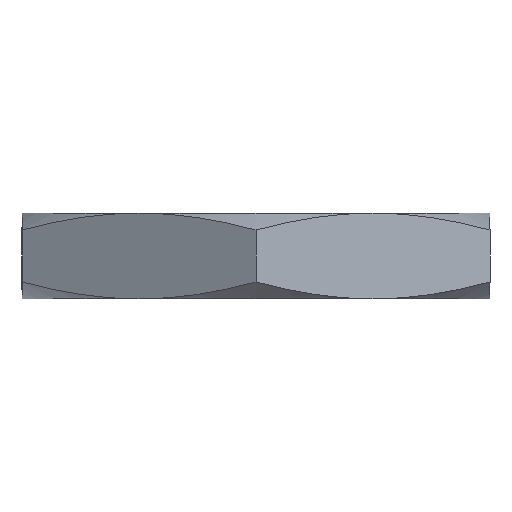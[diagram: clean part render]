
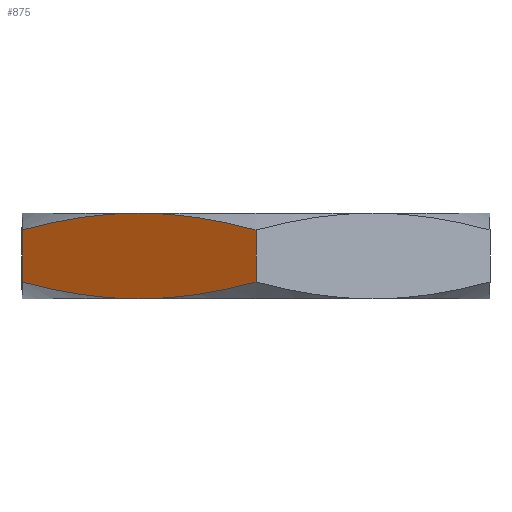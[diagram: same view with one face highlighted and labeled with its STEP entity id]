
A CAD part, front view. The second image highlights one B-rep face of the part: STEP entity #875.
In plain terms, the highlighted planar face has unit normal (-0.5, -0.866, 0).
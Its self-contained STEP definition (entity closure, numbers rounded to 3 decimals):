
#5 = EDGE_CURVE ( 'NONE', #1038, #1435, #1552, .T. ) ;
#6 = CARTESIAN_POINT ( 'NONE',  ( -3.636, -4.194, 1.964 ) ) ;
#13 = DIRECTION ( 'NONE',  ( 0., 0., -1. ) ) ;
#45 = CARTESIAN_POINT ( 'NONE',  ( -2.725, -4.72, 0. ) ) ;
#56 = ORIENTED_EDGE ( 'NONE', *, *, #1000, .T. ) ;
#76 = CARTESIAN_POINT ( 'NONE',  ( -5.45, -3.147, 1.607 ) ) ;
#107 = FACE_OUTER_BOUND ( 'NONE', #1170, .T. ) ;
#115 = VECTOR ( 'NONE', #1284, 1000. ) ;
#118 = ORIENTED_EDGE ( 'NONE', *, *, #1093, .T. ) ;
#153 = ORIENTED_EDGE ( 'NONE', *, *, #5, .T. ) ;
#163 = VERTEX_POINT ( 'NONE', #553 ) ;
#169 = VERTEX_POINT ( 'NONE', #1059 ) ;
#180 = CARTESIAN_POINT ( 'NONE',  ( -2.725, -4.72, 2. ) ) ;
#226 = B_SPLINE_CURVE_WITH_KNOTS ( 'NONE', 3,
 ( #1490, #341, #346, #1362, #1504, #313 ),
 .UNSPECIFIED., .F., .F.,
 ( 4, 2, 4 ),
 ( 0.003, 0.005, 0.006 ),
 .UNSPECIFIED. ) ;
#244 = PLANE ( 'NONE',  #336 ) ;
#293 = ORIENTED_EDGE ( 'NONE', *, *, #392, .T. ) ;
#311 = CARTESIAN_POINT ( 'NONE',  ( -2.725, -4.72, 2. ) ) ;
#313 = CARTESIAN_POINT ( 'NONE',  ( 0., -6.293, 0.393 ) ) ;
#336 = AXIS2_PLACEMENT_3D ( 'NONE', #1492, #1123, #997 ) ;
#341 = CARTESIAN_POINT ( 'NONE',  ( -2.271, -4.982, 0. ) ) ;
#346 = CARTESIAN_POINT ( 'NONE',  ( -1.814, -5.246, 0.036 ) ) ;
#392 = EDGE_CURVE ( 'NONE', #169, #783, #1005, .T. ) ;
#433 = CARTESIAN_POINT ( 'NONE',  ( -1.809, -5.249, 2. ) ) ;
#544 = CARTESIAN_POINT ( 'NONE',  ( -4.548, -3.667, 0.15 ) ) ;
#553 = CARTESIAN_POINT ( 'NONE',  ( 0., -6.293, 0.393 ) ) ;
#644 = EDGE_CURVE ( 'NONE', #1038, #163, #1543, .T. ) ;
#667 = CARTESIAN_POINT ( 'NONE',  ( -4.549, -3.667, 1.827 ) ) ;
#700 = CARTESIAN_POINT ( 'NONE',  ( -2.725, -4.72, 2. ) ) ;
#783 = VERTEX_POINT ( 'NONE', #45 ) ;
#832 = CARTESIAN_POINT ( 'NONE',  ( -3.179, -4.458, 2. ) ) ;
#875 = ADVANCED_FACE ( 'NONE', ( #107 ), #244, .F. ) ;
#933 = CARTESIAN_POINT ( 'NONE',  ( -3.641, -4.191, 0. ) ) ;
#997 = DIRECTION ( 'NONE',  ( -0.866, 0.5, 0. ) ) ;
#1000 = EDGE_CURVE ( 'NONE', #1418, #169, #1439, .T. ) ;
#1005 = B_SPLINE_CURVE_WITH_KNOTS ( 'NONE', 3,
 ( #1064, #544, #933, #1440 ),
 .UNSPECIFIED., .F., .F.,
 ( 4, 4 ),
 ( 0., 0.003 ),
 .UNSPECIFIED. ) ;
#1038 = VERTEX_POINT ( 'NONE', #1146 ) ;
#1059 = CARTESIAN_POINT ( 'NONE',  ( -5.45, -3.147, 0.393 ) ) ;
#1064 = CARTESIAN_POINT ( 'NONE',  ( -5.45, -3.147, 0.393 ) ) ;
#1070 = CARTESIAN_POINT ( 'NONE',  ( -5.001, -3.406, 1.728 ) ) ;
#1072 = EDGE_CURVE ( 'NONE', #783, #163, #226, .T. ) ;
#1093 = EDGE_CURVE ( 'NONE', #1435, #1418, #1304, .T. ) ;
#1123 = DIRECTION ( 'NONE',  ( 0.5, 0.866, 0. ) ) ;
#1132 = VECTOR ( 'NONE', #13, 1000. ) ;
#1146 = CARTESIAN_POINT ( 'NONE',  ( 0., -6.293, 1.607 ) ) ;
#1170 = EDGE_LOOP ( 'NONE', ( #1607, #153, #118, #56, #293, #1584 ) ) ;
#1181 = CARTESIAN_POINT ( 'NONE',  ( -5.45, -3.147, 2. ) ) ;
#1284 = DIRECTION ( 'NONE',  ( 0., 0., -1. ) ) ;
#1290 = CARTESIAN_POINT ( 'NONE',  ( -5.45, -3.147, 1.607 ) ) ;
#1304 = B_SPLINE_CURVE_WITH_KNOTS ( 'NONE', 3,
 ( #180, #832, #6, #667, #1070, #1290 ),
 .UNSPECIFIED., .F., .F.,
 ( 4, 2, 4 ),
 ( 0.003, 0.005, 0.006 ),
 .UNSPECIFIED. ) ;
#1362 = CARTESIAN_POINT ( 'NONE',  ( -0.901, -5.773, 0.173 ) ) ;
#1417 = CARTESIAN_POINT ( 'NONE',  ( 0., -6.293, 2. ) ) ;
#1418 = VERTEX_POINT ( 'NONE', #76 ) ;
#1435 = VERTEX_POINT ( 'NONE', #311 ) ;
#1439 = LINE ( 'NONE', #1181, #1132 ) ;
#1440 = CARTESIAN_POINT ( 'NONE',  ( -2.725, -4.72, 0. ) ) ;
#1452 = CARTESIAN_POINT ( 'NONE',  ( 0., -6.293, 1.607 ) ) ;
#1490 = CARTESIAN_POINT ( 'NONE',  ( -2.725, -4.72, 0. ) ) ;
#1492 = CARTESIAN_POINT ( 'NONE',  ( -5.45, -3.147, 2. ) ) ;
#1504 = CARTESIAN_POINT ( 'NONE',  ( -0.449, -6.034, 0.272 ) ) ;
#1543 = LINE ( 'NONE', #1417, #115 ) ;
#1552 = B_SPLINE_CURVE_WITH_KNOTS ( 'NONE', 3,
 ( #1452, #1587, #433, #700 ),
 .UNSPECIFIED., .F., .F.,
 ( 4, 4 ),
 ( 0., 0.003 ),
 .UNSPECIFIED. ) ;
#1584 = ORIENTED_EDGE ( 'NONE', *, *, #1072, .T. ) ;
#1587 = CARTESIAN_POINT ( 'NONE',  ( -0.902, -5.772, 1.85 ) ) ;
#1607 = ORIENTED_EDGE ( 'NONE', *, *, #644, .F. ) ;
